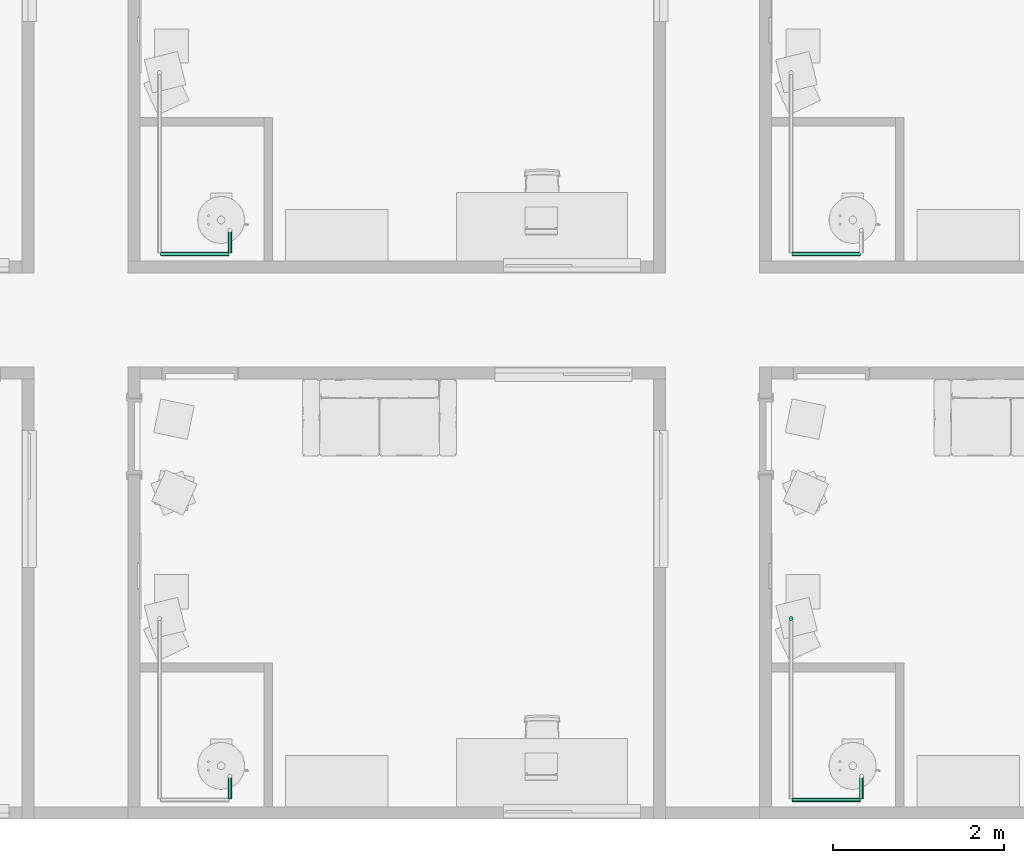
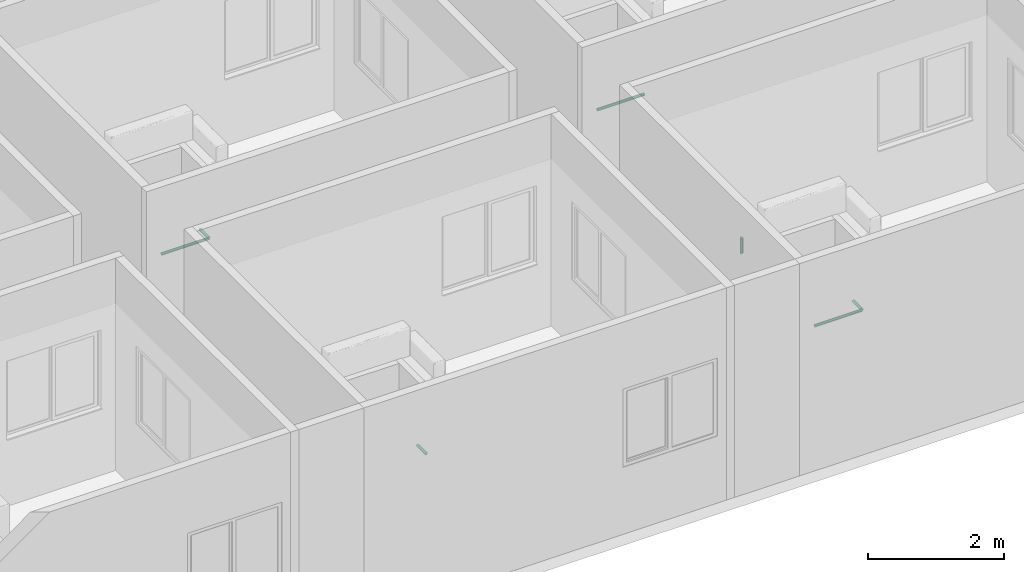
# One storey, part 44 of 72: 7 pipe segments.
"""IFC4 building model written with IfcOpenShell, lengths in centimetres."""

import ifcopenshell
import ifcopenshell.guid

model = None  # the IFC model being written
_history = None  # IfcOwnerHistory: only IFC2X3 demands one
_inside = {}  # id of a spatial element -> (the spatial element, [elements in it])
_under = {}  # id of a project, library or spatial element -> (it, [spatial elements below it])
_declared = {}  # id of a project -> (the project, [libraries it declares])
_typed = {}  # id of a type object -> (the type object, [elements of that type])
_made_of = {}  # id of a material, layer set ... -> (it, [elements and type objects made of it])


def new_model(schema):
    """Start an empty IFC model of exactly this schema.

    Asked for "IFC4X3", IfcOpenShell would pick the latest addendum, in which some entities
    have other attributes; the version numbers below select the first issue.
    IFC2X3 requires an IfcOwnerHistory on every rooted entity: one is made here for all.
    """
    global model, _history
    if schema == "IFC4X3":
        model = ifcopenshell.file(schema_version=(4, 3, 0, 0))
    else:
        model = ifcopenshell.file(schema=schema)
    _inside.clear()
    _under.clear()
    _declared.clear()
    _typed.clear()
    _made_of.clear()
    _history = None
    if model.schema == "IFC2X3":
        org = make("IfcOrganization", Name="unknown")
        user = make(
            "IfcPersonAndOrganization",
            ThePerson=make("IfcPerson", FamilyName="unknown"),
            TheOrganization=org,
        )
        app = make(
            "IfcApplication",
            ApplicationDeveloper=org,
            Version="unknown",
            ApplicationFullName="unknown",
            ApplicationIdentifier="unknown",
        )
        _history = make(
            "IfcOwnerHistory",
            OwningUser=user,
            OwningApplication=app,
            ChangeAction="ADDED",
            CreationDate=0,
        )
    return model


def make(cls, **values):
    """One entity of the class cls with the attributes given. An attribute that is None is left unset."""
    return model.create_entity(
        cls, **{name: value for name, value in values.items() if value is not None}
    )


def entity(cls, *values):
    """Any entity or typed value of the class cls, its attributes in the order of the schema. None: left unset."""
    e = model.create_entity(cls)
    for i, value in enumerate(values):
        if value is not None:
            e[i] = value
    return e


def rooted(cls, **values):
    """An entity with a GlobalId (a new one), such as an element, a storey or a relation."""
    return make(cls, GlobalId=ifcopenshell.guid.new(), OwnerHistory=_history, **values)


def si_unit(unit_type, name, prefix=None):
    """IfcSIUnit, for example si_unit("LENGTHUNIT", "METRE", prefix="MILLI")."""
    return make("IfcSIUnit", UnitType=unit_type, Prefix=prefix, Name=name)


def converted_unit(unit_type, name, factor, base, dimensions=None, offset=None):
    """IfcConversionBasedUnit, such as the inch: factor (a typed value) times the base unit."""
    return make(
        "IfcConversionBasedUnit"
        if offset is None
        else "IfcConversionBasedUnitWithOffset",
        ConversionOffset=offset,
        Dimensions=None
        if dimensions is None
        else entity("IfcDimensionalExponents", *dimensions),
        UnitType=unit_type,
        Name=name,
        ConversionFactor=make(
            "IfcMeasureWithUnit", ValueComponent=factor, UnitComponent=base
        ),
    )


def derived_unit(unit_type, elements):
    """IfcDerivedUnit: a product of units, each with its exponent."""
    return make(
        "IfcDerivedUnit",
        Elements=[
            make("IfcDerivedUnitElement", Unit=unit, Exponent=power)
            for unit, power in elements
        ],
        UnitType=unit_type,
    )


def assignment(units):
    """IfcUnitAssignment: the units of a project."""
    return None if units is None else make("IfcUnitAssignment", Units=units)


def point(xyz):
    """IfcCartesianPoint."""
    return None if xyz is None else make("IfcCartesianPoint", Coordinates=xyz)


def direction(xyz):
    """IfcDirection."""
    return None if xyz is None else make("IfcDirection", DirectionRatios=xyz)


def frame(location, z_axis=None, x_axis=None):
    """IfcAxis2Placement3D, a coordinate frame: its origin and axes. An axis left out is left unset."""
    return make(
        "IfcAxis2Placement3D",
        Location=point(location),
        Axis=direction(z_axis),
        RefDirection=direction(x_axis),
    )


def origin():
    """The frame at (0, 0, 0) with its axes left unset."""
    return frame((0.0, 0.0, 0.0))


def place(relative_to, where):
    """IfcLocalPlacement: puts the frame where relative to a parent placement (None: the world)."""
    return make(
        "IfcLocalPlacement", PlacementRelTo=relative_to, RelativePlacement=where
    )


def context(
    kind, dimensions, precision=None, world=None, true_north=None, identifier=None
):
    """IfcGeometricRepresentationContext, for example the 3D "Model" context."""
    return make(
        "IfcGeometricRepresentationContext",
        ContextIdentifier=identifier,
        ContextType=kind,
        CoordinateSpaceDimension=dimensions,
        Precision=precision,
        WorldCoordinateSystem=world,
        TrueNorth=true_north,
    )


def subcontext(parent, identifier, kind, view, scale=None):
    """IfcGeometricRepresentationSubContext, for example "Body" below "Model"."""
    return make(
        "IfcGeometricRepresentationSubContext",
        ContextIdentifier=identifier,
        ContextType=kind,
        ParentContext=parent,
        TargetScale=scale,
        TargetView=view,
    )


def project(units=None, contexts=None):
    """IfcProject with its units and contexts."""
    return rooted(
        "IfcProject",
        Name="project",
        RepresentationContexts=contexts,
        UnitsInContext=assignment(units),
    )


def spatial(cls, under=None, at=None, **own):
    """A site, building, storey or space (cls), placed at a placement, below another one or the project."""
    s = rooted(cls, ObjectPlacement=at, **own)
    if under is not None:
        _under.setdefault(under.id(), (under, []))[1].append(s)
    return s


def point_list(points):
    """IfcCartesianPointList2D or 3D."""
    cls = (
        "IfcCartesianPointList2D" if len(points[0]) == 2 else "IfcCartesianPointList3D"
    )
    return make(cls, CoordList=points)


def arc(*indices):
    """IfcArcIndex: an arc through three numbered points of an indexed curve."""
    return model.create_entity("IfcArcIndex", indices)


def indexed_curve(points, segments=None, self_intersect=None):
    """IfcIndexedPolyCurve: lines and arcs through numbered points (the first is 1)."""
    return make(
        "IfcIndexedPolyCurve",
        Points=point_list(points),
        Segments=segments,
        SelfIntersect=self_intersect,
    )


def outline(outer, holes=None, kind="AREA"):
    """IfcArbitraryClosedProfileDef: a profile drawn as a closed curve; with holes, ...WithVoids."""
    if holes is None:
        return make("IfcArbitraryClosedProfileDef", ProfileType=kind, OuterCurve=outer)
    return make(
        "IfcArbitraryProfileDefWithVoids",
        ProfileType=kind,
        OuterCurve=outer,
        InnerCurves=holes,
    )


def extrude(swept, where, along, depth):
    """IfcExtrudedAreaSolid: the profile swept, set in the frame where, extruded along a direction by depth."""
    return make(
        "IfcExtrudedAreaSolid",
        SweptArea=swept,
        Position=where,
        ExtrudedDirection=direction(along),
        Depth=depth,
    )


def shape(context_of_items, identifier, shape_type, items):
    """IfcShapeRepresentation: the items that make up one representation, for example the "Body"."""
    return make(
        "IfcShapeRepresentation",
        ContextOfItems=context_of_items,
        RepresentationIdentifier=identifier,
        RepresentationType=shape_type,
        Items=items,
    )


def made_of(thing, what):
    """Note that an element or type object is made of a material, layer set ...; save() writes the relation."""
    if what is not None:
        _made_of.setdefault(what.id(), (what, []))[1].append(thing)
    return thing


def type_object(cls, material=None, **own):
    """A type object (cls), such as IfcWallType, which elements share."""
    return made_of(rooted(cls, **own), material)


def element(
    cls,
    number,
    at=None,
    inside=None,
    cuts=None,
    type_object=None,
    material=None,
    context=None,
    identifier="Body",
    shape_type=None,
    held_by="IfcProductDefinitionShape",
    body=None,
    shapes=None,
    **own,
):
    """One element of the class cls, such as IfcWall. Its Tag is "e" and its number.

    at: its placement. inside: the storey or other place that contains it. cuts: it is an
    opening in that element (IfcRelVoidsElement). A single representation is given by context,
    identifier, shape_type and body (its items); several are given by shapes. held_by: the class
    of the entity that holds the representations. save() writes the other relations.
    """
    e = rooted(cls, Tag="e%d" % number, ObjectPlacement=at, **own)
    if body is not None:
        shapes = [shape(context, identifier, shape_type, body)]
    if shapes is not None:
        e.Representation = make(held_by, Representations=shapes)
    if inside is not None:
        _inside.setdefault(inside.id(), (inside, []))[1].append(e)
    if cuts is not None:
        rooted(
            "IfcRelVoidsElement", RelatingBuildingElement=cuts, RelatedOpeningElement=e
        )
    if type_object is not None:
        _typed.setdefault(type_object.id(), (type_object, []))[1].append(e)
    return made_of(e, material)


def aggregate(whole, parts):
    """IfcRelAggregates: a whole, such as a stair, and the parts it consists of."""
    return rooted("IfcRelAggregates", RelatingObject=whole, RelatedObjects=parts)


def save(model, path):
    """Write the relations noted so far, then the file.

    IfcRelAggregates (storeys below a building ...), IfcRelContainedInSpatialStructure (elements
    in a storey), IfcRelDefinesByType, IfcRelAssociatesMaterial and IfcRelDeclares: one each for
    every whole, place, type object, material and project.
    """
    for whole, parts in _under.values():
        aggregate(whole, parts)
    for where, things in _inside.values():
        rooted(
            "IfcRelContainedInSpatialStructure",
            RelatedElements=things,
            RelatingStructure=where,
        )
    for kind, things in _typed.values():
        rooted("IfcRelDefinesByType", RelatedObjects=things, RelatingType=kind)
    for what, things in _made_of.values():
        rooted("IfcRelAssociatesMaterial", RelatedObjects=things, RelatingMaterial=what)
    for by, libraries in _declared.values():
        rooted("IfcRelDeclares", RelatingContext=by, RelatedDefinitions=libraries)
    model.write(path)


model = new_model("IFC4")

# Units and contexts
model_context = context("Model", 3, precision=0.001, world=origin(), true_north=direction((6.123233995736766e-17, 1.0)))
body_context = subcontext(model_context, "Body", "Model", "MODEL_VIEW")
ifc_project = project(units=[si_unit("LENGTHUNIT", "METRE", prefix="CENTI"), si_unit("AREAUNIT", "SQUARE_METRE"), si_unit("VOLUMEUNIT", "CUBIC_METRE"), derived_unit("THERMALTRANSMITTANCEUNIT", [(si_unit("MASSUNIT", "GRAM", prefix="KILO"), 1), (si_unit("THERMODYNAMICTEMPERATUREUNIT", "KELVIN"), -1), (si_unit("TIMEUNIT", "SECOND"), -3)]), converted_unit("PLANEANGLEUNIT", "DEGREE", entity("IfcPlaneAngleMeasure", 0.017453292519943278), si_unit("PLANEANGLEUNIT", "RADIAN"), dimensions=[0, 0, 0, 0, 0, 0, 0]), derived_unit("MASSDENSITYUNIT", [(si_unit("MASSUNIT", "GRAM", prefix="KILO"), 1), (si_unit("LENGTHUNIT", "METRE"), -3)]), derived_unit("VAPORPERMEABILITYUNIT", [(si_unit("LENGTHUNIT", "METRE"), -1), (si_unit("TIMEUNIT", "SECOND"), 1)]), derived_unit("USERDEFINED", [(si_unit("MASSUNIT", "GRAM", prefix="KILO"), 1), (si_unit("TIMEUNIT", "SECOND"), -3), (si_unit("LENGTHUNIT", "METRE"), 3), (si_unit("ELECTRICCURRENTUNIT", "AMPERE"), -2)]), derived_unit("SPECIFICHEATCAPACITYUNIT", [(si_unit("THERMODYNAMICTEMPERATUREUNIT", "KELVIN"), -1), (si_unit("LENGTHUNIT", "METRE"), 2), (si_unit("TIMEUNIT", "SECOND"), -2)]), derived_unit("THERMALCONDUCTANCEUNIT", [(si_unit("MASSUNIT", "GRAM", prefix="KILO"), 1), (si_unit("THERMODYNAMICTEMPERATUREUNIT", "KELVIN"), -1), (si_unit("TIMEUNIT", "SECOND"), -3), (si_unit("LENGTHUNIT", "METRE"), 1)]), si_unit("PRESSUREUNIT", "PASCAL"), derived_unit("MODULUSOFELASTICITYUNIT", [(si_unit("MASSUNIT", "GRAM", prefix="KILO"), 1), (si_unit("LENGTHUNIT", "METRE"), -1), (si_unit("TIMEUNIT", "SECOND"), -2)]), derived_unit("THERMALEXPANSIONCOEFFICIENTUNIT", [(si_unit("THERMODYNAMICTEMPERATUREUNIT", "KELVIN"), -1)])], contexts=[model_context])

# Site, building, storey
site_placement = place(None, origin())
site = spatial("IfcSite", under=ifc_project, at=site_placement, Name="Default", CompositionType="ELEMENT")
building_placement = place(site_placement, origin())
building = spatial("IfcBuilding", under=site, at=building_placement, Name="IDS Escape Game Building", CompositionType="ELEMENT")
storey_placement = place(building_placement, frame((0.0, 0.0, 800.0)))
storey = spatial("IfcBuildingStorey", under=building, at=storey_placement, Name="02_Second Floor", CompositionType="ELEMENT", Elevation=800.0)

# Pipe segments
pipe_segment_type = type_object("IfcPipeSegmentType", Name="Pipe Types:Piping Aluminum", PredefinedType="NOTDEFINED")
pipe_segment_1_placement = place(storey_placement, origin())
element("IfcPipeSegment", 1, at=pipe_segment_1_placement, inside=storey, type_object=pipe_segment_type, Name="Pipe Types:Piping Aluminum", ObjectType="Pipe Types:Piping Aluminum", PredefinedType="NOTDEFINED", context=body_context, shape_type="SweptSolid", body=[
    extrude(outline(indexed_curve([(2.4129999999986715, 0.0), (1.7062486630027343, 1.706248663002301), (1.2994405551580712e-12, 2.412999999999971), (-1.7062486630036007, 1.7062486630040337), (-2.413000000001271, 0.0), (-1.7062486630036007, -1.7062486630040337), (1.2994405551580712e-12, -2.412999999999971), (1.7062486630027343, -1.706248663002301)], segments=[arc(1, 2, 3), arc(3, 4, 5), arc(5, 6, 7), arc(7, 8, 1)], self_intersect=False)), frame((1588.1500000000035, 22.36482792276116, 242.0), z_axis=(0.0, 1.0, 0.0), x_axis=(-1.0, 0.0, 0.0)), (0.0, 0.0, 1.0), 25.435172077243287),
])
pipe_segment_2_placement = place(storey_placement, origin())
element("IfcPipeSegment", 2, at=pipe_segment_2_placement, inside=storey, type_object=pipe_segment_type, Name="Pipe Types:Piping Aluminum", ObjectType="Pipe Types:Piping Aluminum", PredefinedType="NOTDEFINED", context=body_context, shape_type="SweptSolid", body=[
    extrude(outline(indexed_curve([(2.412999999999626, -2.165734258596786e-13), (1.7062486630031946, 1.7062486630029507), (3.790034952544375e-13, 2.4130000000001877), (-1.7062486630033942, 1.706248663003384), (-2.4130000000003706, -2.165734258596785e-13), (-1.70624866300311, -1.706248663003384), (3.654676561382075e-13, -2.4129999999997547), (1.7062486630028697, -1.7062486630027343)], segments=[arc(1, 2, 3), arc(3, 4, 5), arc(5, 6, 7), arc(7, 8, 1)], self_intersect=False)), frame((2245.1467168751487, 21.264827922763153, 242.0), z_axis=(1.0, 0.0, 0.0), x_axis=(0.0, 1.0, 0.0)), (0.0, 0.0, 1.0), 79.90328312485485),
])
pipe_segment_3_placement = place(storey_placement, origin())
element("IfcPipeSegment", 3, at=pipe_segment_3_placement, inside=storey, type_object=pipe_segment_type, Name="Pipe Types:Piping Aluminum", ObjectType="Pipe Types:Piping Aluminum", PredefinedType="NOTDEFINED", context=body_context, shape_type="SweptSolid", body=[
    extrude(outline(indexed_curve([(2.4129999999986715, 0.0), (1.7062486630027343, 1.7062486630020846), (1.7325874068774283e-12, 2.412999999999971), (-1.7062486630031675, 1.7062486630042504), (-2.413000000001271, 0.0), (-1.7062486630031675, -1.7062486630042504), (1.7325874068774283e-12, -2.412999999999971), (1.7062486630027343, -1.7062486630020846)], segments=[arc(1, 2, 3), arc(3, 4, 5), arc(5, 6, 7), arc(7, 8, 1)], self_intersect=False)), frame((2326.1500000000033, 22.36482792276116, 242.0), z_axis=(0.0, 1.0, 0.0), x_axis=(-1.0, 0.0, 0.0)), (0.0, 0.0, 1.0), 25.435172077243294),
])
pipe_segment_4_placement = place(storey_placement, origin())
element("IfcPipeSegment", 4, at=pipe_segment_4_placement, inside=storey, type_object=pipe_segment_type, Name="Pipe Types:Piping Aluminum", ObjectType="Pipe Types:Piping Aluminum", PredefinedType="NOTDEFINED", context=body_context, shape_type="SweptSolid", body=[
    extrude(outline(indexed_curve([(2.412999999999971, -2.7071678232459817e-14), (1.7062486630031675, 1.7062486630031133), (0.0, 2.412999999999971), (-1.7062486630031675, 1.7062486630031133), (-2.412999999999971, 0.0), (-1.7062486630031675, -1.7062486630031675), (0.0, -2.413000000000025), (1.7062486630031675, -1.7062486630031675)], segments=[arc(1, 2, 3), arc(3, 4, 5), arc(5, 6, 7), arc(7, 8, 1)], self_intersect=False)), frame((2244.046716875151, 233.26482792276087, 244.09999999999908), z_axis=(0.0, 0.0, 1.0), x_axis=(-1.0, 0.0, 0.0)), (0.0, 0.0, 1.0), 27.90000000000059),
])
pipe_segment_5_placement = place(storey_placement, origin())
element("IfcPipeSegment", 5, at=pipe_segment_5_placement, inside=storey, type_object=pipe_segment_type, Name="Pipe Types:Piping Aluminum", ObjectType="Pipe Types:Piping Aluminum", PredefinedType="NOTDEFINED", context=body_context, shape_type="SweptSolid", body=[
    extrude(outline(indexed_curve([(2.4129999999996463, -2.165734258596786e-13), (1.7062486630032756, 1.7062486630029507), (4.331468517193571e-13, 2.4130000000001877), (-1.706248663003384, 1.706248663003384), (-2.413000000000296, -2.165734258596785e-13), (-1.706248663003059, -1.706248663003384), (4.3314685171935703e-13, -2.4129999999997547), (1.7062486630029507, -1.7062486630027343)], segments=[arc(1, 2, 3), arc(3, 4, 5), arc(5, 6, 7), arc(7, 8, 1)], self_intersect=False)), frame((1507.1467168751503, 659.2648279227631, 242.0), z_axis=(1.0, 0.0, 0.0), x_axis=(0.0, 1.0, 0.0)), (0.0, 0.0, 1.0), 79.90328312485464),
])
pipe_segment_6_placement = place(storey_placement, origin())
element("IfcPipeSegment", 6, at=pipe_segment_6_placement, inside=storey, type_object=pipe_segment_type, Name="Pipe Types:Piping Aluminum", ObjectType="Pipe Types:Piping Aluminum", PredefinedType="NOTDEFINED", context=body_context, shape_type="SweptSolid", body=[
    extrude(outline(indexed_curve([(2.4129999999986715, 0.0), (1.7062486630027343, 1.706248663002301), (1.2994405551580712e-12, 2.412999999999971), (-1.7062486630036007, 1.7062486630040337), (-2.413000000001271, 0.0), (-1.7062486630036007, -1.7062486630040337), (1.2994405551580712e-12, -2.412999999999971), (1.7062486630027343, -1.706248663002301)], segments=[arc(1, 2, 3), arc(3, 4, 5), arc(5, 6, 7), arc(7, 8, 1)], self_intersect=False)), frame((1588.1500000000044, 660.364827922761, 242.0), z_axis=(0.0, 1.0, 0.0), x_axis=(-1.0, 0.0, 0.0)), (0.0, 0.0, 1.0), 25.43517207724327),
])
pipe_segment_7_placement = place(storey_placement, origin())
element("IfcPipeSegment", 7, at=pipe_segment_7_placement, inside=storey, type_object=pipe_segment_type, Name="Pipe Types:Piping Aluminum", ObjectType="Pipe Types:Piping Aluminum", PredefinedType="NOTDEFINED", context=body_context, shape_type="SweptSolid", body=[
    extrude(outline(indexed_curve([(2.4129999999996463, -2.165734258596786e-13), (1.7062486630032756, 1.7062486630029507), (4.331468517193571e-13, 2.4130000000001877), (-1.706248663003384, 1.706248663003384), (-2.413000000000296, -2.165734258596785e-13), (-1.706248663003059, -1.706248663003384), (4.3314685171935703e-13, -2.4129999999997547), (1.7062486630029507, -1.7062486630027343)], segments=[arc(1, 2, 3), arc(3, 4, 5), arc(5, 6, 7), arc(7, 8, 1)], self_intersect=False)), frame((2245.1467168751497, 659.2648279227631, 242.0), z_axis=(1.0, 0.0, 0.0), x_axis=(0.0, 1.0, 0.0)), (0.0, 0.0, 1.0), 79.90328312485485),
])

save(model, "model.ifc")
